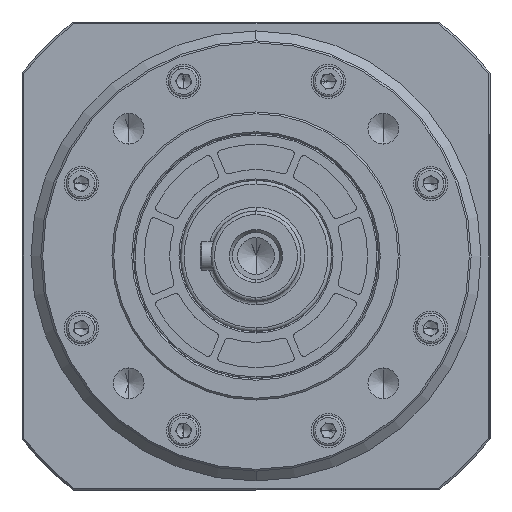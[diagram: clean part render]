
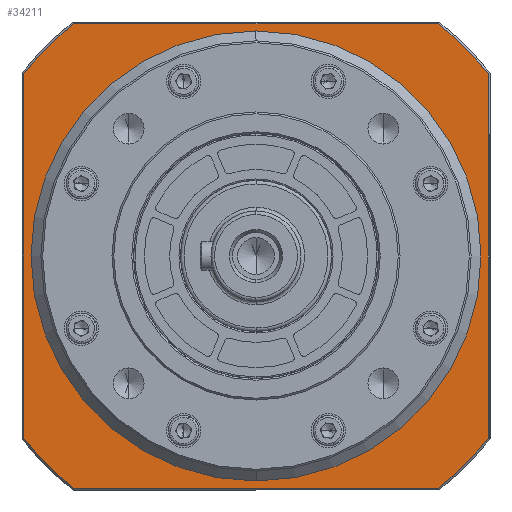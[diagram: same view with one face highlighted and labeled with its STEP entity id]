
A CAD part, left-side view. The second image highlights one B-rep face of the part: STEP entity #34211.
In plain terms, the highlighted planar face has unit normal (-1, 0, 0).
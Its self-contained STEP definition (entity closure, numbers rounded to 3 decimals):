
#792 = DIRECTION ( 'NONE',  ( 0., 1., 0. ) ) ;
#821 = EDGE_CURVE ( 'NONE', #3594, #15565, #21024, .T. ) ;
#938 = DIRECTION ( 'NONE',  ( 1., 0., 0. ) ) ;
#1350 = CARTESIAN_POINT ( 'NONE',  ( 221.5, 64.5, -50.633 ) ) ;
#1447 = VERTEX_POINT ( 'NONE', #34083 ) ;
#2176 = CARTESIAN_POINT ( 'NONE',  ( 221.5, -64.5, -50.633 ) ) ;
#2193 = DIRECTION ( 'NONE',  ( -1., 0., 0. ) ) ;
#2643 = EDGE_CURVE ( 'NONE', #23075, #42149, #26671, .T. ) ;
#3359 = AXIS2_PLACEMENT_3D ( 'NONE', #23809, #10801, #14265 ) ;
#3466 = DIRECTION ( 'NONE',  ( 0., 0., 1. ) ) ;
#3594 = VERTEX_POINT ( 'NONE', #12240 ) ;
#4278 = CARTESIAN_POINT ( 'NONE',  ( 221.5, 0., 0. ) ) ;
#4449 = DIRECTION ( 'NONE',  ( 0., -1., 0. ) ) ;
#6182 = CARTESIAN_POINT ( 'NONE',  ( 221.5, -64.5, 0. ) ) ;
#6445 = ORIENTED_EDGE ( 'NONE', *, *, #37351, .F. ) ;
#6709 = LINE ( 'NONE', #10838, #40923 ) ;
#7248 = DIRECTION ( 'NONE',  ( 0., 1., 0. ) ) ;
#7519 = CARTESIAN_POINT ( 'NONE',  ( 221.5, 0., 0. ) ) ;
#7702 = VERTEX_POINT ( 'NONE', #1350 ) ;
#8075 = DIRECTION ( 'NONE',  ( 1., 0., 0. ) ) ;
#9706 = VERTEX_POINT ( 'NONE', #28541 ) ;
#10550 = DIRECTION ( 'NONE',  ( 1., 0., 0. ) ) ;
#10801 = DIRECTION ( 'NONE',  ( 1., 0., 0. ) ) ;
#10838 = CARTESIAN_POINT ( 'NONE',  ( 221.5, 82.5, 64.5 ) ) ;
#11399 = ORIENTED_EDGE ( 'NONE', *, *, #30358, .F. ) ;
#12046 = ORIENTED_EDGE ( 'NONE', *, *, #28707, .F. ) ;
#12198 = VERTEX_POINT ( 'NONE', #19534 ) ;
#12240 = CARTESIAN_POINT ( 'NONE',  ( 221.5, 0., 51. ) ) ;
#12802 = AXIS2_PLACEMENT_3D ( 'NONE', #23210, #17175, #36577 ) ;
#13984 = CIRCLE ( 'NONE', #30838, 82. ) ;
#14265 = DIRECTION ( 'NONE',  ( 0., 1., 0. ) ) ;
#14284 = CIRCLE ( 'NONE', #3359, 82. ) ;
#14665 = FACE_OUTER_BOUND ( 'NONE', #42479, .T. ) ;
#15161 = LINE ( 'NONE', #36236, #22887 ) ;
#15185 = VECTOR ( 'NONE', #36209, 1000. ) ;
#15565 = VERTEX_POINT ( 'NONE', #38373 ) ;
#16213 = LINE ( 'NONE', #29683, #15185 ) ;
#17175 = DIRECTION ( 'NONE',  ( -1., 0., 0. ) ) ;
#17217 = CARTESIAN_POINT ( 'NONE',  ( 221.5, 0., 0. ) ) ;
#18021 = VECTOR ( 'NONE', #25863, 1000. ) ;
#19185 = ORIENTED_EDGE ( 'NONE', *, *, #35676, .F. ) ;
#19534 = CARTESIAN_POINT ( 'NONE',  ( 221.5, -64.5, 50.633 ) ) ;
#19570 = ORIENTED_EDGE ( 'NONE', *, *, #20391, .F. ) ;
#20391 = EDGE_CURVE ( 'NONE', #1447, #7702, #14284, .T. ) ;
#21024 = CIRCLE ( 'NONE', #36205, 51. ) ;
#21220 = DIRECTION ( 'NONE',  ( 0., 0., -1. ) ) ;
#21627 = DIRECTION ( 'NONE',  ( 0., 0., 1. ) ) ;
#22710 = ORIENTED_EDGE ( 'NONE', *, *, #34989, .F. ) ;
#22887 = VECTOR ( 'NONE', #3466, 1000. ) ;
#23075 = VERTEX_POINT ( 'NONE', #2176 ) ;
#23210 = CARTESIAN_POINT ( 'NONE',  ( 221.5, 0., 0. ) ) ;
#23527 = EDGE_CURVE ( 'NONE', #42149, #1447, #16213, .T. ) ;
#23809 = CARTESIAN_POINT ( 'NONE',  ( 221.5, 0., 0. ) ) ;
#24265 = DIRECTION ( 'NONE',  ( 1., 0., 0. ) ) ;
#25255 = DIRECTION ( 'NONE',  ( 0., 1., 0. ) ) ;
#25530 = AXIS2_PLACEMENT_3D ( 'NONE', #17217, #8075, #25255 ) ;
#25863 = DIRECTION ( 'NONE',  ( 0., 0., -1. ) ) ;
#26004 = ORIENTED_EDGE ( 'NONE', *, *, #23527, .F. ) ;
#26671 = CIRCLE ( 'NONE', #33474, 82. ) ;
#26955 = EDGE_LOOP ( 'NONE', ( #38366, #12046 ) ) ;
#28428 = EDGE_CURVE ( 'NONE', #41457, #12198, #13984, .T. ) ;
#28541 = CARTESIAN_POINT ( 'NONE',  ( 221.5, 64.5, 50.633 ) ) ;
#28707 = EDGE_CURVE ( 'NONE', #15565, #3594, #31065, .T. ) ;
#29683 = CARTESIAN_POINT ( 'NONE',  ( 221.5, 82.5, -64.5 ) ) ;
#30210 = FACE_BOUND ( 'NONE', #26955, .T. ) ;
#30358 = EDGE_CURVE ( 'NONE', #12198, #23075, #35642, .T. ) ;
#30510 = VERTEX_POINT ( 'NONE', #39666 ) ;
#30672 = CIRCLE ( 'NONE', #25530, 82. ) ;
#30838 = AXIS2_PLACEMENT_3D ( 'NONE', #4278, #938, #792 ) ;
#30942 = CARTESIAN_POINT ( 'NONE',  ( 221.5, -50.633, -64.5 ) ) ;
#31065 = CIRCLE ( 'NONE', #12802, 51. ) ;
#33474 = AXIS2_PLACEMENT_3D ( 'NONE', #7519, #10550, #7248 ) ;
#34083 = CARTESIAN_POINT ( 'NONE',  ( 221.5, 50.633, -64.5 ) ) ;
#34211 = ADVANCED_FACE ( 'NONE', ( #14665, #30210 ), #41111, .F. ) ;
#34793 = CARTESIAN_POINT ( 'NONE',  ( 221.5, -50.633, 64.5 ) ) ;
#34989 = EDGE_CURVE ( 'NONE', #7702, #9706, #15161, .T. ) ;
#35642 = LINE ( 'NONE', #6182, #18021 ) ;
#35676 = EDGE_CURVE ( 'NONE', #9706, #30510, #30672, .T. ) ;
#36205 = AXIS2_PLACEMENT_3D ( 'NONE', #38445, #2193, #21627 ) ;
#36209 = DIRECTION ( 'NONE',  ( 0., 1., 0. ) ) ;
#36236 = CARTESIAN_POINT ( 'NONE',  ( 221.5, 64.5, 0. ) ) ;
#36577 = DIRECTION ( 'NONE',  ( 0., 0., 1. ) ) ;
#37351 = EDGE_CURVE ( 'NONE', #30510, #41457, #6709, .T. ) ;
#38366 = ORIENTED_EDGE ( 'NONE', *, *, #821, .F. ) ;
#38373 = CARTESIAN_POINT ( 'NONE',  ( 221.5, 0., -51. ) ) ;
#38445 = CARTESIAN_POINT ( 'NONE',  ( 221.5, 0., 0. ) ) ;
#39084 = ORIENTED_EDGE ( 'NONE', *, *, #28428, .F. ) ;
#39666 = CARTESIAN_POINT ( 'NONE',  ( 221.5, 50.633, 64.5 ) ) ;
#39753 = ORIENTED_EDGE ( 'NONE', *, *, #2643, .F. ) ;
#40836 = CARTESIAN_POINT ( 'NONE',  ( 221.5, 82.5, 0. ) ) ;
#40923 = VECTOR ( 'NONE', #4449, 1000. ) ;
#41111 = PLANE ( 'NONE',  #41900 ) ;
#41457 = VERTEX_POINT ( 'NONE', #34793 ) ;
#41900 = AXIS2_PLACEMENT_3D ( 'NONE', #40836, #24265, #21220 ) ;
#42149 = VERTEX_POINT ( 'NONE', #30942 ) ;
#42479 = EDGE_LOOP ( 'NONE', ( #22710, #19570, #26004, #39753, #11399, #39084, #6445, #19185 ) ) ;
